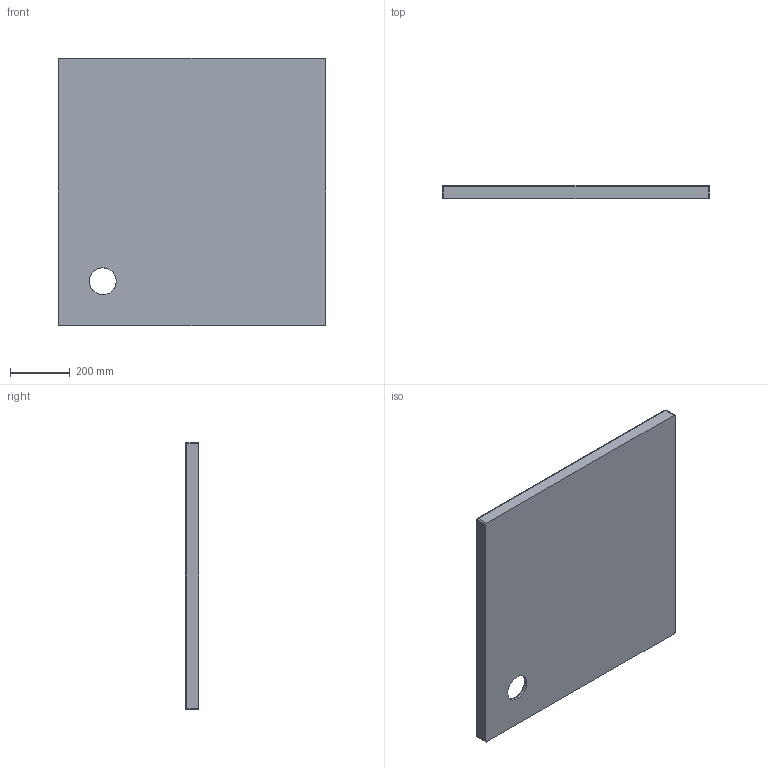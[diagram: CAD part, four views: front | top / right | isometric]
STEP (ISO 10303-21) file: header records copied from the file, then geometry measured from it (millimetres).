
FILE_DESCRIPTION(/* description */ (''),/* implementation_level */ '2;1');
FILE_NAME(/* name */ 'c:\worker\convert-fusion-r09\tmp\job-1\20\output\files\891d525f-3bdf-4353-a31f-cfeadf2ec11a\bec8c848-aa7e-44b4-ba58-a87b344b9577.stp',/* time_stamp */ '2020-01-03T08:30:12+00:00',/* author */ (''),/* organization */ (''),/* preprocessor_version */ 'ST-DEVELOPER v18',/* originating_system */ 'Autodesk Translation Framework v8.12.0.6',/* authorisation */ '');
FILE_SCHEMA (('AUTOMOTIVE_DESIGN { 1 0 10303 214 3 1 1 }'));
Length unit declared in the file: millimetre
Products named in the file (1): Merton 90/K
Bounding box: 900 x 45 x 900 mm (x, y, z)
Volume: 23049755.6 mm3; surface area: 1817367.5 mm2
Topology: 1 solids, 1 shells, 47 faces, 98 edges, 54 vertices
Faces by surface type: cylinder 20, plane 11, sphere 8, bspline 4, torus 4
Entity records: 1665 total; most frequent: CARTESIAN_POINT 623, DIRECTION 229, ORIENTED_EDGE 196, EDGE_CURVE 98, AXIS2_PLACEMENT_3D 92, VERTEX_POINT 54, EDGE_LOOP 50, FACE_OUTER_BOUND 47
